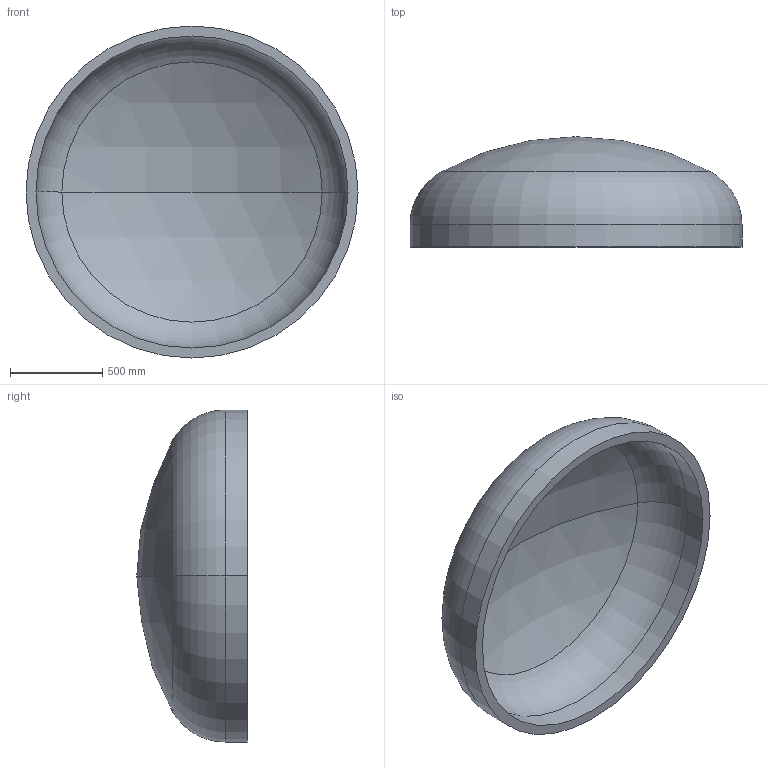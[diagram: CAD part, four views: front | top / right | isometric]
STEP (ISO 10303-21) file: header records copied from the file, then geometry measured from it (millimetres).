
FILE_DESCRIPTION (( 'STEP AP203' ), '1' );
FILE_NAME ('DIN 28013 Korbbogenform_-_Boden DIN 28013 - 1800 x 120 - I - s=54.step', '2016-07-01T12:34:47', ( '' ), ( '' ), 'SwSTEP 2.0', 'SolidWorks 2013', '' );
FILE_SCHEMA (( 'CONFIG_CONTROL_DESIGN' ));
Length unit declared in the file: millimetre
Products named in the file (1): DIN 28013 Korbbogenform_-_Boden DIN 28013 - 1800 x 120 - I - s=54
Bounding box: 1800 x 598.53 x 1800 mm (x, y, z)
Volume: 218253403.8 mm3; surface area: 8385766.2 mm2
Topology: 1 solids, 1 shells, 13 faces, 24 edges, 14 vertices
Faces by surface type: torus 4, cylinder 4, sphere 4, plane 1
Entity records: 407 total; most frequent: DIRECTION 72, CARTESIAN_POINT 52, ORIENTED_EDGE 48, AXIS2_PLACEMENT_3D 34, EDGE_CURVE 24, CIRCLE 20, EDGE_LOOP 14, VERTEX_POINT 14
